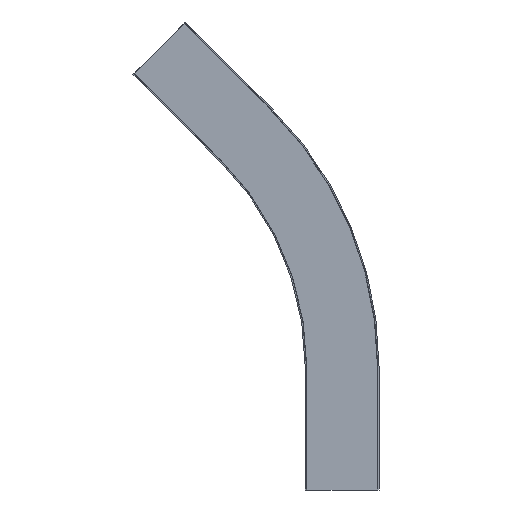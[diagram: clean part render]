
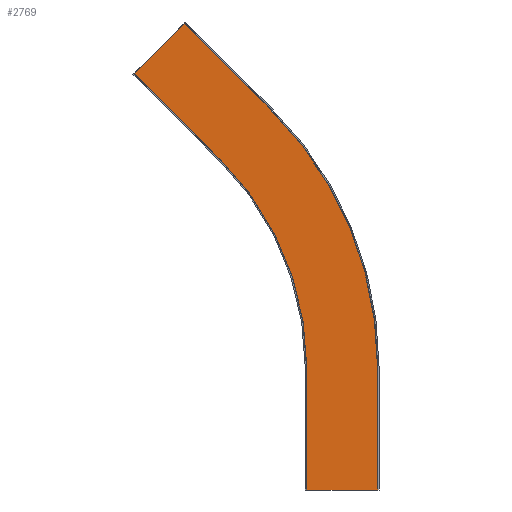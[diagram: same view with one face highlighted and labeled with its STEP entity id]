
A CAD part, front view. The second image highlights one B-rep face of the part: STEP entity #2769.
In plain terms, the highlighted planar face has unit normal (0, -1, 0).
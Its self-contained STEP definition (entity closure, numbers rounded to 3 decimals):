
#93 = CIRCLE ( 'NONE', #2728, 443.15 ) ;
#153 = CARTESIAN_POINT ( 'NONE',  ( -192.712, -42., 569.42 ) ) ;
#161 = CARTESIAN_POINT ( 'NONE',  ( -253.735, -42., 508.397 ) ) ;
#164 = CARTESIAN_POINT ( 'NONE',  ( -86.646, -42., 463.354 ) ) ;
#170 = CARTESIAN_POINT ( 'NONE',  ( -147.669, -42., 402.331 ) ) ;
#273 = FACE_OUTER_BOUND ( 'NONE', #2486, .T. ) ;
#363 = VECTOR ( 'NONE', #1182, 1000. ) ;
#365 = VECTOR ( 'NONE', #1183, 1000. ) ;
#368 = LINE ( 'NONE', #1186, #365 ) ;
#369 = VECTOR ( 'NONE', #1196, 1000. ) ;
#371 = VECTOR ( 'NONE', #1194, 1000. ) ;
#372 = LINE ( 'NONE', #1195, #363 ) ;
#374 = LINE ( 'NONE', #1193, #369 ) ;
#376 = LINE ( 'NONE', #1191, #371 ) ;
#574 = LINE ( 'NONE', #1705, #606 ) ;
#578 = LINE ( 'NONE', #1721, #588 ) ;
#588 = VECTOR ( 'NONE', #611, 1000. ) ;
#606 = VECTOR ( 'NONE', #1712, 1000. ) ;
#611 = DIRECTION ( 'NONE',  ( -0.707, 0., 0.707 ) ) ;
#787 = CARTESIAN_POINT ( 'NONE',  ( -400., -42., 150. ) ) ;
#788 = DIRECTION ( 'NONE',  ( 0., -1., 0. ) ) ;
#789 = DIRECTION ( 'NONE',  ( 0., 0., -1. ) ) ;
#797 = CARTESIAN_POINT ( 'NONE',  ( -400., -42., 150. ) ) ;
#798 = DIRECTION ( 'NONE',  ( 0., -1., 0. ) ) ;
#799 = DIRECTION ( 'NONE',  ( 0., 0., -1. ) ) ;
#1141 = CARTESIAN_POINT ( 'NONE',  ( -43.15, -42., 0. ) ) ;
#1142 = CARTESIAN_POINT ( 'NONE',  ( 43.15, -42., 0. ) ) ;
#1182 = DIRECTION ( 'NONE',  ( -0.707, 0., -0.707 ) ) ;
#1183 = DIRECTION ( 'NONE',  ( 0., 0., -1. ) ) ;
#1186 = CARTESIAN_POINT ( 'NONE',  ( 43.15, -42., 150. ) ) ;
#1191 = CARTESIAN_POINT ( 'NONE',  ( -43.15, -42., 150. ) ) ;
#1193 = CARTESIAN_POINT ( 'NONE',  ( -43.15, -42., 0. ) ) ;
#1194 = DIRECTION ( 'NONE',  ( 0., 0., -1. ) ) ;
#1195 = CARTESIAN_POINT ( 'NONE',  ( -253.735, -42., 508.397 ) ) ;
#1196 = DIRECTION ( 'NONE',  ( -1., 0., 0. ) ) ;
#1306 = PLANE ( 'NONE',  #2618 ) ;
#1307 = CARTESIAN_POINT ( 'NONE',  ( -43.15, -42., 150. ) ) ;
#1312 = DIRECTION ( 'NONE',  ( 0., -1., 0. ) ) ;
#1313 = DIRECTION ( 'NONE',  ( 1., 0., 0. ) ) ;
#1705 = CARTESIAN_POINT ( 'NONE',  ( -147.669, -42., 402.331 ) ) ;
#1712 = DIRECTION ( 'NONE',  ( -0.707, 0., 0.707 ) ) ;
#1721 = CARTESIAN_POINT ( 'NONE',  ( -86.646, -42., 463.354 ) ) ;
#1723 = CIRCLE ( 'NONE', #2726, 356.85 ) ;
#1746 = EDGE_CURVE ( 'NONE', #2351, #2303, #376, .T. ) ;
#1747 = EDGE_CURVE ( 'NONE', #2302, #2303, #374, .T. ) ;
#1749 = EDGE_CURVE ( 'NONE', #2349, #2302, #368, .T. ) ;
#1750 = EDGE_CURVE ( 'NONE', #2397, #2401, #372, .T. ) ;
#1928 = ORIENTED_EDGE ( 'NONE', *, *, #1746, .T. ) ;
#1929 = ORIENTED_EDGE ( 'NONE', *, *, #3039, .F. ) ;
#1930 = ORIENTED_EDGE ( 'NONE', *, *, #2961, .F. ) ;
#1931 = ORIENTED_EDGE ( 'NONE', *, *, #1750, .T. ) ;
#1932 = ORIENTED_EDGE ( 'NONE', *, *, #2966, .T. ) ;
#1933 = ORIENTED_EDGE ( 'NONE', *, *, #3042, .T. ) ;
#1934 = ORIENTED_EDGE ( 'NONE', *, *, #1749, .F. ) ;
#1935 = ORIENTED_EDGE ( 'NONE', *, *, #1747, .F. ) ;
#2302 = VERTEX_POINT ( 'NONE', #1142 ) ;
#2303 = VERTEX_POINT ( 'NONE', #1141 ) ;
#2349 = VERTEX_POINT ( 'NONE', #2881 ) ;
#2351 = VERTEX_POINT ( 'NONE', #2905 ) ;
#2397 = VERTEX_POINT ( 'NONE', #153 ) ;
#2401 = VERTEX_POINT ( 'NONE', #161 ) ;
#2404 = VERTEX_POINT ( 'NONE', #164 ) ;
#2407 = VERTEX_POINT ( 'NONE', #170 ) ;
#2486 = EDGE_LOOP ( 'NONE', ( #1935, #1934, #1933, #1932, #1931, #1930, #1929, #1928 ) ) ;
#2618 = AXIS2_PLACEMENT_3D ( 'NONE', #1307, #1312, #1313 ) ;
#2726 = AXIS2_PLACEMENT_3D ( 'NONE', #787, #788, #789 ) ;
#2728 = AXIS2_PLACEMENT_3D ( 'NONE', #797, #798, #799 ) ;
#2769 = ADVANCED_FACE ( 'NONE', ( #273 ), #1306, .T. ) ;
#2881 = CARTESIAN_POINT ( 'NONE',  ( 43.15, -42., 150. ) ) ;
#2905 = CARTESIAN_POINT ( 'NONE',  ( -43.15, -42., 150. ) ) ;
#2961 = EDGE_CURVE ( 'NONE', #2407, #2401, #574, .T. ) ;
#2966 = EDGE_CURVE ( 'Edge42', #2404, #2397, #578, .T. ) ;
#3039 = EDGE_CURVE ( 'NONE', #2351, #2407, #1723, .T. ) ;
#3042 = EDGE_CURVE ( 'Edge18', #2349, #2404, #93, .T. ) ;
